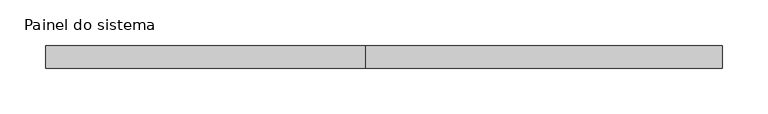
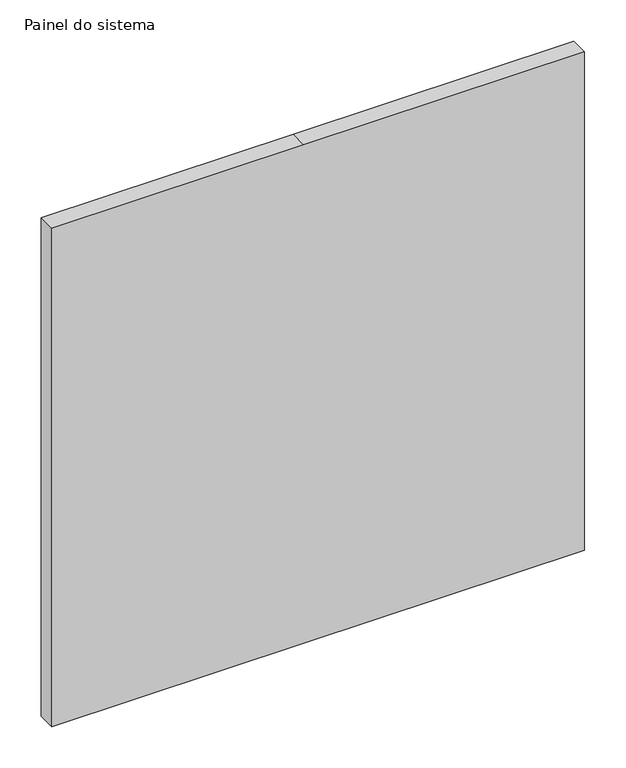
"""IFC4 building model written with IfcOpenShell, lengths in millimetres: plate geometry, Painel do sistema : Envidraçado."""

from ifc_helpers import new_model, si_unit, frame, origin, place, context, project, spatial, polyline, outline, extrude, source, transform, mapped, element, save


def painel_do_sistema_8e75a714(model_context):
    return source(origin(), model_context, "Body", "SweptSolid", [
        extrude(outline(polyline([(0.0, -371.6829921), (0.0, -19.983504), (0.0, 371.6829921), (735.0, 371.6829921), (735.0, -19.983504), (735.0, -371.6829921), (0.0, -371.6829921)])), frame((0.0, 24.5, 0.0), z_axis=(0.0, 1.0, 0.0), x_axis=(0.0, 0.0, 1.0)), (0.0, 0.0, 1.0), 25.0),
    ])


if __name__ == "__main__":
    model = new_model("IFC4")
    model_context = context("Model", 3, world=origin())
    ifc_project = project(units=[si_unit("LENGTHUNIT", "METRE", prefix="MILLI")], contexts=[model_context])
    site = spatial("IfcSite", under=ifc_project)
    building = spatial("IfcBuilding", under=site)
    placement = place(None, origin())
    painel_do_sistema_shape = painel_do_sistema_8e75a714(model_context)
    element("IfcPlate", 1, ObjectType="Painel do sistema : Envidraçado", at=placement, inside=building, context=model_context, shape_type="MappedRepresentation", body=[
        mapped(painel_do_sistema_shape, transform((0.0, 0.0, 0.0), x_axis=(1.0, 0.0, 0.0), y_axis=(0.0, 1.0, 0.0), z_axis=(0.0, 0.0, 1.0))),
    ])
    save(model, "model.ifc")
